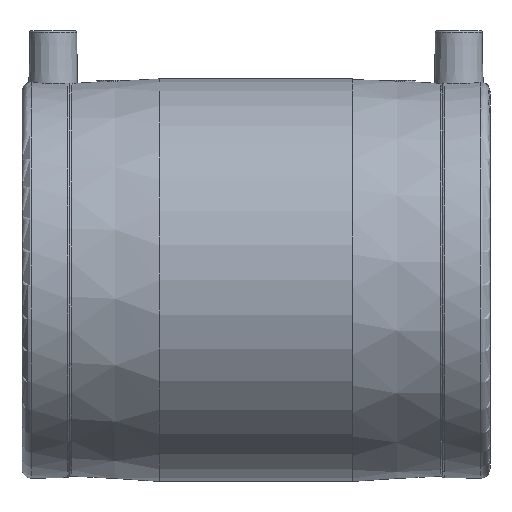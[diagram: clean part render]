
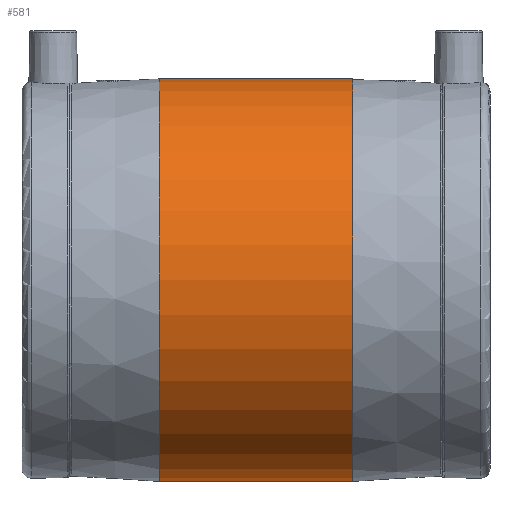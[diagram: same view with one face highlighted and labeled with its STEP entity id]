
A CAD part, front view. The second image highlights one B-rep face of the part: STEP entity #581.
In plain terms, the highlighted cylindrical face has radius 64.5 mm (diameter 129 mm), a full revolution.
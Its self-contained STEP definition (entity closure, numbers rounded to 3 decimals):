
#77=CYLINDRICAL_SURFACE('',#656,64.5);
#156=ORIENTED_EDGE('',*,*,#288,.T.);
#157=ORIENTED_EDGE('',*,*,#289,.T.);
#288=EDGE_CURVE('',#352,#352,#394,.T.);
#289=EDGE_CURVE('',#353,#353,#395,.F.);
#352=VERTEX_POINT('',#1063);
#353=VERTEX_POINT('',#1065);
#394=CIRCLE('',#657,64.5);
#395=CIRCLE('',#658,64.5);
#438=EDGE_LOOP('',(#156));
#439=EDGE_LOOP('',(#157));
#510=FACE_BOUND('',#438,.T.);
#511=FACE_BOUND('',#439,.T.);
#581=ADVANCED_FACE('',(#510,#511),#77,.T.);
#656=AXIS2_PLACEMENT_3D('',#1061,#775,#776);
#657=AXIS2_PLACEMENT_3D('',#1062,#777,#778);
#658=AXIS2_PLACEMENT_3D('',#1064,#779,#780);
#775=DIRECTION('',(-1.,0.,0.));
#776=DIRECTION('',(0.,0.,1.));
#777=DIRECTION('',(1.,0.,0.));
#778=DIRECTION('',(0.,0.,-1.));
#779=DIRECTION('',(1.,0.,0.));
#780=DIRECTION('',(0.,0.,-1.));
#1061=CARTESIAN_POINT('',(-60.,0.,0.));
#1062=CARTESIAN_POINT('',(-30.997,0.,0.));
#1063=CARTESIAN_POINT('',(-30.997,0.,-64.5));
#1064=CARTESIAN_POINT('',(30.997,0.,0.));
#1065=CARTESIAN_POINT('',(30.997,0.,-64.5));
